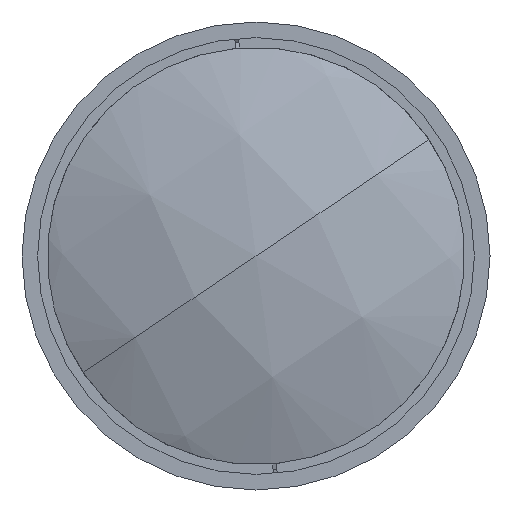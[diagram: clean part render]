
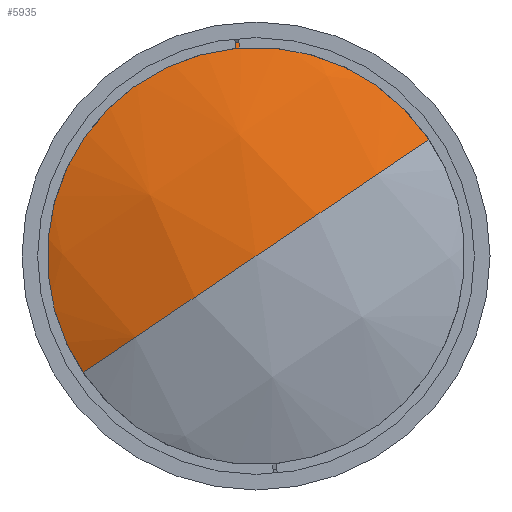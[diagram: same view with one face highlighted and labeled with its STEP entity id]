
A CAD part, left-side view. The second image highlights one B-rep face of the part: STEP entity #5935.
In plain terms, the highlighted spherical face has radius 133.05 mm.
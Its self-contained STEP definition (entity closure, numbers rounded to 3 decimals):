
#1109 = VERTEX_POINT ( 'NONE', #6454 ) ;
#2842 = CARTESIAN_POINT ( 'NONE',  ( 1.5, 0., 0. ) ) ;
#3679 = CARTESIAN_POINT ( 'NONE',  ( 13.4, -45.636, 30.697 ) ) ;
#4098 = CARTESIAN_POINT ( 'NONE',  ( 13.4, 0., 0. ) ) ;
#4488 = DIRECTION ( 'NONE',  ( 0., 0.558, 0.83 ) ) ;
#4865 = DIRECTION ( 'NONE',  ( 0., 0.558, 0.83 ) ) ;
#5516 = CIRCLE ( 'NONE', #6463, 133.05 ) ;
#5803 = DIRECTION ( 'NONE',  ( 0., 0.558, 0.83 ) ) ;
#5935 = ADVANCED_FACE ( 'NONE', ( #19433 ), #10914, .T. ) ;
#6300 = AXIS2_PLACEMENT_3D ( 'NONE', #9086, #20950, #10779 ) ;
#6454 = CARTESIAN_POINT ( 'NONE',  ( 13.4, 45.636, -30.697 ) ) ;
#6463 = AXIS2_PLACEMENT_3D ( 'NONE', #15015, #4865, #16732 ) ;
#6861 = VERTEX_POINT ( 'NONE', #3679 ) ;
#8864 = EDGE_CURVE ( 'NONE', #6861, #17540, #17011, .T. ) ;
#9086 = CARTESIAN_POINT ( 'NONE',  ( 134.55, 0., 0. ) ) ;
#10370 = EDGE_LOOP ( 'NONE', ( #13018, #18625, #15650 ) ) ;
#10779 = DIRECTION ( 'NONE',  ( 0., 0.83, -0.558 ) ) ;
#10914 = SPHERICAL_SURFACE ( 'NONE', #18765, 133.05 ) ;
#11182 = EDGE_CURVE ( 'NONE', #1109, #17540, #5516, .T. ) ;
#11850 = EDGE_CURVE ( 'NONE', #6861, #1109, #16099, .T. ) ;
#12843 = AXIS2_PLACEMENT_3D ( 'NONE', #4098, #15943, #5803 ) ;
#13018 = ORIENTED_EDGE ( 'NONE', *, *, #11850, .T. ) ;
#15015 = CARTESIAN_POINT ( 'NONE',  ( 134.55, 0., 0. ) ) ;
#15650 = ORIENTED_EDGE ( 'NONE', *, *, #8864, .F. ) ;
#15943 = DIRECTION ( 'NONE',  ( -1., 0., 0. ) ) ;
#16099 = CIRCLE ( 'NONE', #12843, 55. ) ;
#16358 = DIRECTION ( 'NONE',  ( 0., -0.83, 0.558 ) ) ;
#16732 = DIRECTION ( 'NONE',  ( 0., -0.83, 0.558 ) ) ;
#17011 = CIRCLE ( 'NONE', #6300, 133.05 ) ;
#17540 = VERTEX_POINT ( 'NONE', #2842 ) ;
#18625 = ORIENTED_EDGE ( 'NONE', *, *, #11182, .T. ) ;
#18765 = AXIS2_PLACEMENT_3D ( 'NONE', #21389, #4488, #16358 ) ;
#19433 = FACE_OUTER_BOUND ( 'NONE', #10370, .T. ) ;
#20950 = DIRECTION ( 'NONE',  ( 0., -0.558, -0.83 ) ) ;
#21389 = CARTESIAN_POINT ( 'NONE',  ( 134.55, 0., 0. ) ) ;
